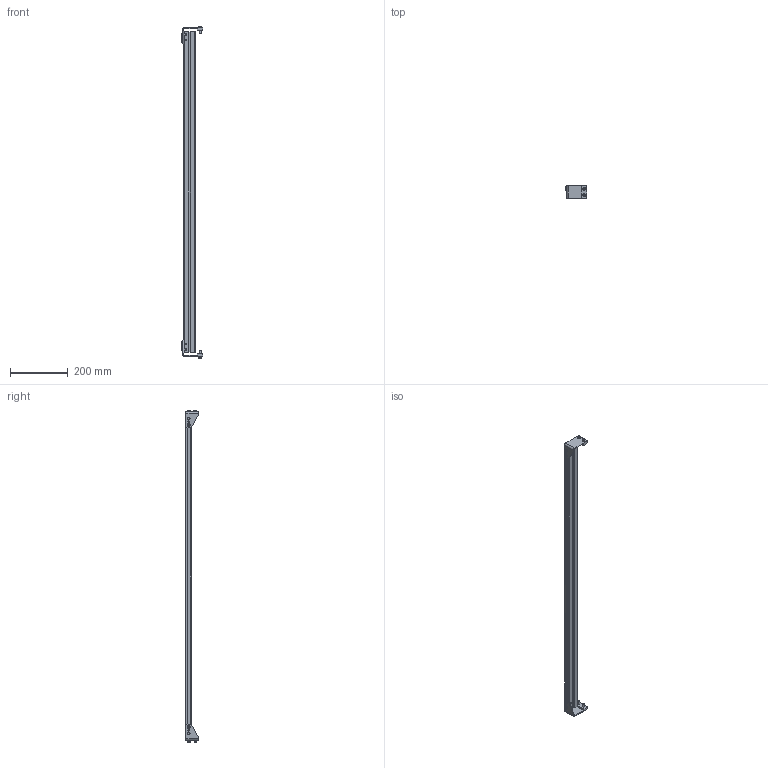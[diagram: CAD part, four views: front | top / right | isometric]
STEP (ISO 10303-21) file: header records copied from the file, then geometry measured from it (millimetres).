
FILE_DESCRIPTION((''),'2;1');
FILE_NAME('3076WWM_2_ASM','2023-03-15T',('jenni.wallner'),(''),'PRO/ENGINEER BY PARAMETRIC TECHNOLOGY CORPORATION, 2012420','PRO/ENGINEER BY PARAMETRIC TECHNOLOGY CORPORATION, 2012420','');
FILE_SCHEMA(('CONFIG_CONTROL_DESIGN'));
Length unit declared in the file: inch
Products named in the file (4): 677721_1; BRACKET_L; BRACKET_R; 3076WWM_2_ASM
Assembly tree (3 placements, depth 2):
  3076WWM_2_ASM
    677721_1
    BRACKET_L
    BRACKET_R
Bounding box: 76.2 x 46.13 x 1154.42 mm (x, y, z)
Volume: 497930.8 mm3; surface area: 299137.1 mm2
Topology: 3 solids, 3 shells, 296 faces, 730 edges, 476 vertices
Faces by surface type: plane 188, cylinder 76, cone 32
Entity records: 8834 total; most frequent: CARTESIAN_POINT 1525, DIRECTION 1512, ORIENTED_EDGE 1460, EDGE_CURVE 730, VECTOR 538, LINE 538, AXIS2_PLACEMENT_3D 487, VERTEX_POINT 476
